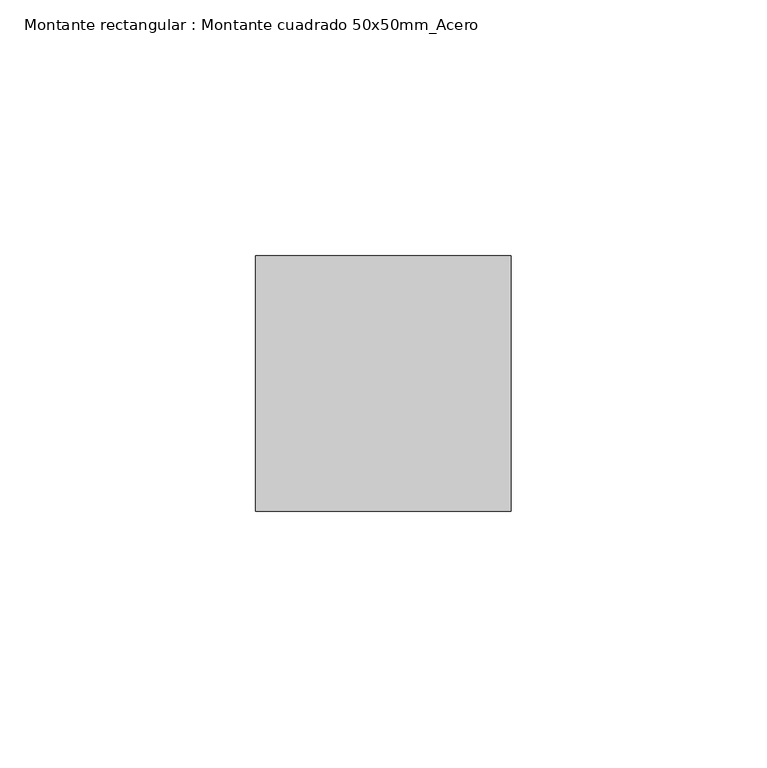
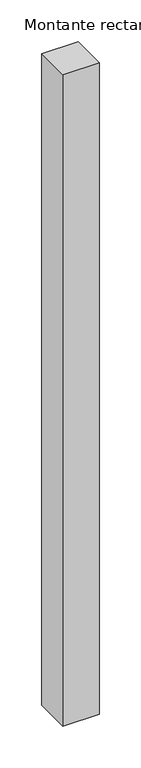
"""IFC4 building model written with IfcOpenShell, lengths in millimetres: member geometry, Montante rectangular : Montante cuadrado 50x50mm_Acero."""

from ifc_helpers import new_model, si_unit, frame, origin, place, context, project, spatial, polyline, outline, extrude, source, transform, mapped, element, save


def montante_rectangular_montante_cuadrado_50x50mm_acero_77c015a5(model_context):
    return source(origin(), model_context, "Body", "SweptSolid", [
        extrude(outline(polyline([(-50.0, 0.0), (0.0, 0.0), (0.0, -50.0), (-50.0, -50.0), (-50.0, 0.0)])), frame((0.0, 0.0, -950.0), z_axis=(0.0, 0.0, 1.0), x_axis=(1.0, 0.0, 0.0)), (0.0, 0.0, 1.0), 950.0),
    ])


if __name__ == "__main__":
    model = new_model("IFC4")
    model_context = context("Model", 3, world=origin())
    ifc_project = project(units=[si_unit("LENGTHUNIT", "METRE", prefix="MILLI")], contexts=[model_context])
    site = spatial("IfcSite", under=ifc_project)
    building = spatial("IfcBuilding", under=site)
    placement = place(None, origin())
    montante_rectangular_montante_cuadrado_50x50mm_acero_shape = montante_rectangular_montante_cuadrado_50x50mm_acero_77c015a5(model_context)
    element("IfcMember", 1, ObjectType="Montante rectangular : Montante cuadrado 50x50mm_Acero", at=placement, inside=building, context=model_context, shape_type="MappedRepresentation", body=[
        mapped(montante_rectangular_montante_cuadrado_50x50mm_acero_shape, transform((0.0, 0.0, 0.0), x_axis=(1.0, 0.0, 0.0), y_axis=(0.0, 1.0, 0.0), z_axis=(0.0, 0.0, 1.0))),
    ])
    save(model, "model.ifc")
